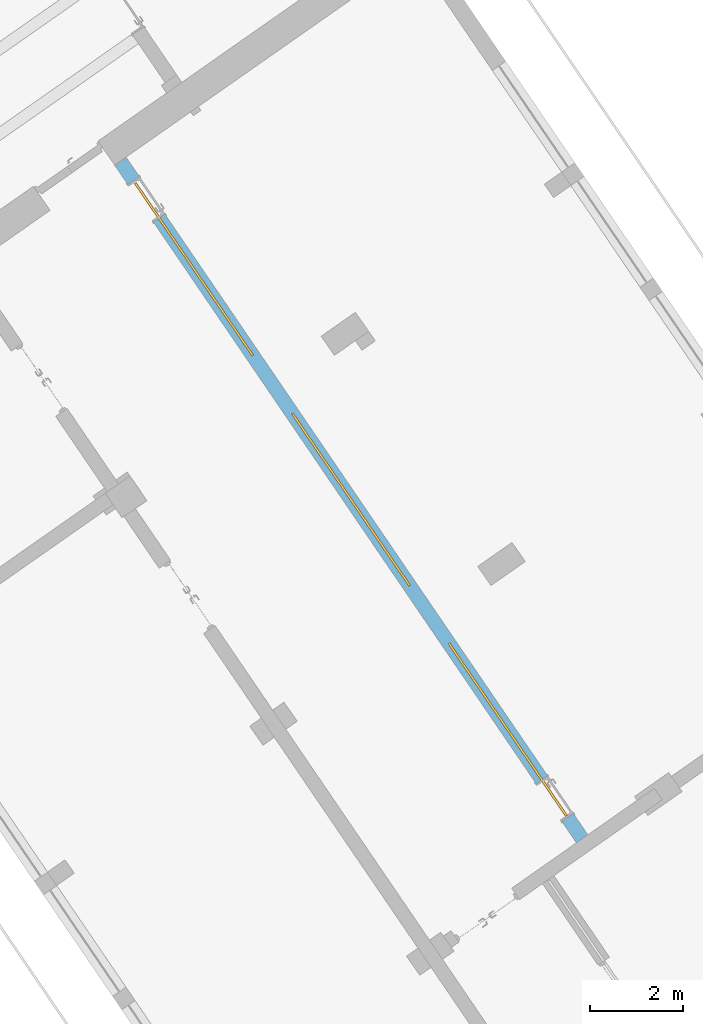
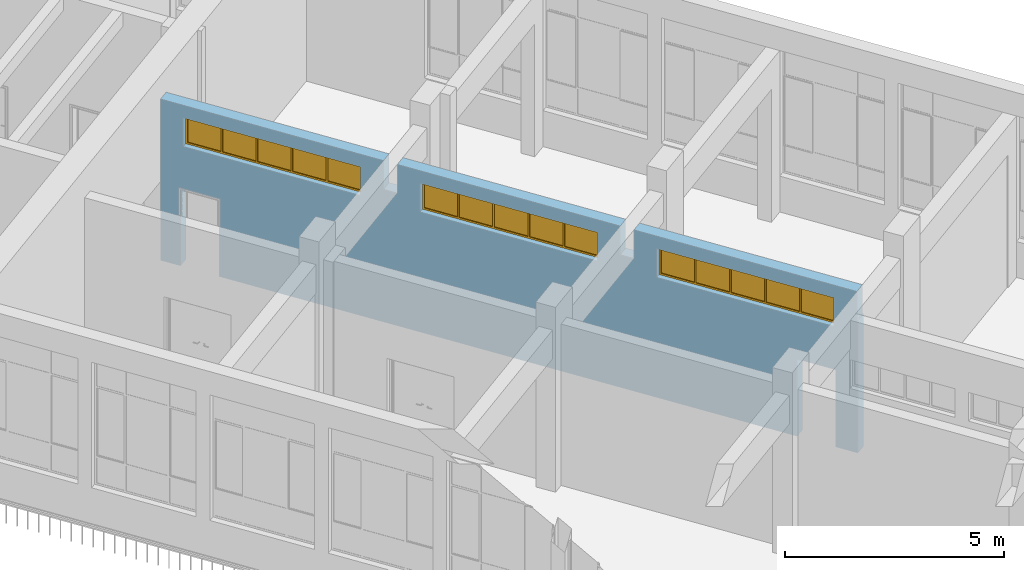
# One storey, part 128 of 157: 3 windows, 5 openings, plus 1 element that does not belong to this part.
"""IFC2X3 building model written with IfcOpenShell, lengths in millimetres."""

from ifc_helpers import new_model, entity, si_unit, converted_unit, derived_unit, direction, frame, frame_2d, origin, origin_2d_with_axis, place, context, subcontext, project, spatial, polyline, rectangle, outline, extrude, faceted_brep, source, transform, mapped, material, material_list, layer, layer_set, type_object, type_shapes, element, fill, save


model = new_model("IFC2X3")

# Units and contexts
model_context = context("Model", 3, precision=0.01, world=origin(), true_north=direction((6.123031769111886e-17, 1.0)))
body_context = subcontext(model_context, "Body", "Model", "MODEL_VIEW")
ifc_project = project(units=[si_unit("LENGTHUNIT", "METRE", prefix="MILLI"), si_unit("AREAUNIT", "SQUARE_METRE"), si_unit("VOLUMEUNIT", "CUBIC_METRE"), converted_unit("PLANEANGLEUNIT", "DEGREE", entity("IfcRatioMeasure", 0.017453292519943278), si_unit("PLANEANGLEUNIT", "RADIAN"), dimensions=[0, 0, 0, 0, 0, 0, 0]), si_unit("MASSUNIT", "GRAM", prefix="KILO"), derived_unit("MASSDENSITYUNIT", [(si_unit("MASSUNIT", "GRAM", prefix="KILO"), 1), (si_unit("LENGTHUNIT", "METRE"), -3)]), derived_unit("MOMENTOFINERTIAUNIT", [(si_unit("LENGTHUNIT", "METRE"), 4)]), si_unit("TIMEUNIT", "SECOND"), si_unit("FREQUENCYUNIT", "HERTZ"), si_unit("THERMODYNAMICTEMPERATUREUNIT", "DEGREE_CELSIUS"), derived_unit("THERMALTRANSMITTANCEUNIT", [(si_unit("MASSUNIT", "GRAM", prefix="KILO"), 1), (si_unit("THERMODYNAMICTEMPERATUREUNIT", "KELVIN"), -1), (si_unit("TIMEUNIT", "SECOND"), -3)]), derived_unit("THERMALCONDUCTANCEUNIT", [(si_unit("MASSUNIT", "GRAM", prefix="KILO"), 1), (si_unit("LENGTHUNIT", "METRE"), 1), (si_unit("THERMODYNAMICTEMPERATUREUNIT", "KELVIN"), -1), (si_unit("TIMEUNIT", "SECOND"), -3)]), derived_unit("VOLUMETRICFLOWRATEUNIT", [(si_unit("LENGTHUNIT", "METRE"), 3), (si_unit("TIMEUNIT", "SECOND"), -1)]), derived_unit("MASSFLOWRATEUNIT", [(si_unit("MASSUNIT", "GRAM", prefix="KILO"), 1), (si_unit("TIMEUNIT", "SECOND"), -1)]), derived_unit("ROTATIONALFREQUENCYUNIT", [(si_unit("TIMEUNIT", "SECOND"), -1)]), si_unit("ELECTRICCURRENTUNIT", "AMPERE"), si_unit("ELECTRICVOLTAGEUNIT", "VOLT"), si_unit("POWERUNIT", "WATT"), converted_unit("FORCEUNIT", "KIP", entity("IfcRatioMeasure", 2.088543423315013e-05), si_unit("FORCEUNIT", "NEWTON"), dimensions=[1, 1, -2, 0, 0, 0, 0]), si_unit("ILLUMINANCEUNIT", "LUX"), si_unit("LUMINOUSFLUXUNIT", "LUMEN"), si_unit("LUMINOUSINTENSITYUNIT", "CANDELA"), derived_unit("USERDEFINED", [(si_unit("MASSUNIT", "GRAM", prefix="KILO"), -1), (si_unit("LENGTHUNIT", "METRE"), -2), (si_unit("TIMEUNIT", "SECOND"), 3), (si_unit("LUMINOUSFLUXUNIT", "LUMEN"), 1)]), derived_unit("USERDEFINED", [(si_unit("MASSUNIT", "GRAM", prefix="KILO"), 1), (si_unit("LENGTHUNIT", "METRE"), 3), (si_unit("TIMEUNIT", "SECOND"), -3), (si_unit("ELECTRICCURRENTUNIT", "AMPERE"), -2)]), derived_unit("USERDEFINED", [(si_unit("LENGTHUNIT", "METRE"), 2), (si_unit("TIMEUNIT", "SECOND"), -2)]), derived_unit("SOUNDPOWERUNIT", [(si_unit("MASSUNIT", "GRAM", prefix="KILO"), 1), (si_unit("LENGTHUNIT", "METRE"), 2), (si_unit("TIMEUNIT", "SECOND"), -3)]), derived_unit("SOUNDPRESSUREUNIT", [(si_unit("MASSUNIT", "GRAM", prefix="KILO"), 1), (si_unit("LENGTHUNIT", "METRE"), -1), (si_unit("TIMEUNIT", "SECOND"), -2)]), derived_unit("LINEARVELOCITYUNIT", [(si_unit("LENGTHUNIT", "METRE"), 1), (si_unit("TIMEUNIT", "SECOND"), -1)]), si_unit("PRESSUREUNIT", "PASCAL"), derived_unit("USERDEFINED", [(si_unit("LENGTHUNIT", "METRE"), -2), (si_unit("MASSUNIT", "GRAM", prefix="KILO"), 1), (si_unit("TIMEUNIT", "SECOND"), -2)]), derived_unit("LINEARFORCEUNIT", [(si_unit("MASSUNIT", "GRAM", prefix="KILO"), 1), (si_unit("LENGTHUNIT", "METRE"), 1), (si_unit("TIMEUNIT", "SECOND"), -2), (si_unit("LENGTHUNIT", "METRE"), -1)]), derived_unit("PLANARFORCEUNIT", [(si_unit("MASSUNIT", "GRAM", prefix="KILO"), 1), (si_unit("LENGTHUNIT", "METRE"), 1), (si_unit("TIMEUNIT", "SECOND"), -2), (si_unit("LENGTHUNIT", "METRE"), -2)]), derived_unit("SPECIFICHEATCAPACITYUNIT", [(si_unit("LENGTHUNIT", "METRE"), 2), (si_unit("TIMEUNIT", "SECOND"), -2), (si_unit("THERMODYNAMICTEMPERATUREUNIT", "KELVIN"), -1)]), derived_unit("VAPORPERMEABILITYUNIT", [(si_unit("TIMEUNIT", "SECOND"), 1), (si_unit("LENGTHUNIT", "METRE"), -1)]), derived_unit("DYNAMICVISCOSITYUNIT", [(si_unit("MASSUNIT", "GRAM", prefix="KILO"), 1), (si_unit("LENGTHUNIT", "METRE"), -1), (si_unit("TIMEUNIT", "SECOND"), -1)]), derived_unit("THERMALEXPANSIONCOEFFICIENTUNIT", [(si_unit("THERMODYNAMICTEMPERATUREUNIT", "KELVIN"), -1)])], contexts=[model_context])

# Site, building, storey
site_placement = place(None, frame((0.0, 0.0, 0.0), z_axis=(0.0, 0.0, 1.0), x_axis=(0.8191520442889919, 0.5735764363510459, 0.0)))
site = spatial("IfcSite", under=ifc_project, at=site_placement, Name="Default", CompositionType="ELEMENT")
building_placement = place(site_placement, origin())
building = spatial("IfcBuilding", under=site, at=building_placement, CompositionType="ELEMENT")
storey_placement = place(building_placement, origin())
storey = spatial("IfcBuildingStorey", under=building, at=storey_placement, Name="1.EG +0.00", CompositionType="ELEMENT", Elevation=-4.331468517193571e-12)

# Wall, openings, windows
ifc_material_1 = material(Name="Analytical Wall Surface_CJC")
ifc_layer = layer(ifc_material_1, 300.0)
ifc_layer_set = layer_set([ifc_layer], Name="Basic Wall:Wand_Innen_30")
wall_type = type_object("IfcWallType", Name="Basic Wall:Wand_Innen_30", PredefinedType="STANDARD", material=ifc_layer_set)
wall_placement = place(storey_placement, frame((-213206.32020927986, 85544.44947620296, 0.0), z_axis=(0.0, 0.0, 1.0), x_axis=(0.012729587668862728, 0.999918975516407, 0.0)))
wall = element("IfcWall", 1, at=wall_placement, inside=storey, type_object=wall_type, Name="Basic Wall:Wand_Innen_30", ObjectType="Basic Wall:Wand_Innen_30", context=body_context, shape_type="Brep", body=[
    faceted_brep([(17680.25140954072, -150.0, 0.0), (17680.251409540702, -150.0, 4500.0), (12029.79358411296, -150.0, 4500.0), (12029.793584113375, -150.0, 3700.0), (11679.765223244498, -150.0, 3700.0), (11679.765223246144, -150.0, 4500.0), (6029.307397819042, -150.0, 4500.0), (6029.307397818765, -150.0, 3700.0), (5679.279036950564, -150.0, 3700.0), (5679.2790369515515, -150.0, 4500.0), (28.8212115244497, -150.0, 4500.0), (28.8212115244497, -150.0, 3700.0), (3.81918574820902, -150.0, 3700.0), (3.81918574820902, -150.0, 0.0), (562.206842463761, -150.0, 0.0), (562.206842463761, -150.0, 2150.0), (1542.2068424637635, -150.0, 2150.0), (1542.2068424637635, -150.0, 0.0), (16192.206842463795, -150.0, 0.0), (16192.206842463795, -150.0, 2150.0), (17172.206842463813, -150.0, 2150.0), (17172.2068424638, -150.0, 0.0), (6602.3084521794, -150.0, 3350.0), (6602.308452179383, -150.0, 4150.0), (11102.308452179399, -150.0, 4150.0), (11102.308452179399, -150.0, 3350.0), (602.308452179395, -150.0, 3350.0), (602.3084521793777, -150.0, 4150.0), (5102.308452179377, -150.0, 4150.0), (5102.308452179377, -150.0, 3350.0), (12602.308452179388, -150.0, 3350.0), (12602.30845217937, -150.0, 4150.0), (17102.308452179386, -150.0, 4150.0), (17102.308452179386, -150.0, 3350.0), (17676.43222379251, 150.0, 4500.0), (17676.43222379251, 150.0, 0.0), (17172.206842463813, 150.0, 0.0), (17172.20684246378, 150.0, 2150.0), (16192.206842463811, 150.0, 2150.0), (16192.206842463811, 150.0, 0.0), (1542.2068424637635, 150.0, 0.0), (1542.206842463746, 150.0, 2150.0), (562.206842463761, 150.0, 2150.0), (562.206842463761, 150.0, 0.0), (0.0, 150.0, 0.0), (0.0, 150.0, 3700.0), (25.002025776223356, 150.0, 3700.0), (25.002025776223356, 150.0, 4500.0), (5675.459851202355, 150.0, 4500.0), (5675.45985120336, 150.0, 3700.0), (6025.4882120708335, 150.0, 3700.0), (6025.488212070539, 150.0, 4500.0), (11675.94603749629, 150.0, 4500.0), (11675.946037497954, 150.0, 3700.0), (12025.974398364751, 150.0, 3700.0), (12025.97439836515, 150.0, 4500.0), (6602.308452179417, 150.0, 4150.0), (6602.3084521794, 150.0, 3350.0), (11102.308452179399, 150.0, 3350.0), (11102.308452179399, 150.0, 4150.0), (602.308452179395, 150.0, 4150.0), (602.3084521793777, 150.0, 3350.0), (5102.308452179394, 150.0, 3350.0), (5102.308452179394, 150.0, 4150.0), (12602.308452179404, 150.0, 4150.0), (12602.308452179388, 150.0, 3350.0), (17102.308452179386, 150.0, 3350.0), (17102.308452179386, 150.0, 4150.0), (17676.464448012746, 147.46876252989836, 0.0)], [[[0, 1, 2, 3, 4, 5, 6, 7, 8, 9, 10, 11, 12, 13, 14, 15, 16, 17, 18, 19, 20, 21], [22, 23, 24, 25], [26, 27, 28, 29], [30, 31, 32, 33]], [[34, 35, 36, 37, 38, 39, 40, 41, 42, 43, 44, 45, 46, 47, 48, 49, 50, 51, 52, 53, 54, 55], [56, 57, 58, 59], [60, 61, 62, 63], [64, 65, 66, 67]], [[43, 14, 13, 44]], [[1, 34, 55, 2]], [[1, 0, 68, 35, 34]], [[50, 7, 6, 51]], [[8, 49, 48, 9]], [[7, 50, 49, 8]], [[54, 3, 2, 55]], [[4, 53, 52, 5]], [[3, 54, 53, 4]], [[21, 20, 37, 36]], [[20, 19, 38, 37]], [[19, 18, 39, 38]], [[42, 15, 14, 43]], [[15, 42, 41, 16]], [[16, 41, 40, 17]], [[46, 45, 12, 11]], [[13, 12, 45, 44]], [[46, 11, 10, 47]], [[23, 22, 57, 56]], [[24, 23, 56, 59]], [[25, 24, 59, 58]], [[22, 25, 58, 57]], [[27, 26, 61, 60]], [[28, 27, 60, 63]], [[29, 28, 63, 62]], [[26, 29, 62, 61]], [[31, 30, 65, 64]], [[32, 31, 64, 67]], [[33, 32, 67, 66]], [[30, 33, 66, 65]], [[10, 9, 48, 47]], [[51, 6, 5, 52]], [[39, 18, 17, 40]], [[35, 68, 0, 21, 36]]]),
])
opening_1_placement = place(wall_placement, frame((17172.206842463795, 150.0, 0.0)))
element("IfcOpeningElement", 2, at=opening_1_placement, cuts=wall, Name="Doors_IntSgl:90x210:1", ObjectType="Opening", context=body_context, shape_type="SweptSolid", body=[
    extrude(rectangle(XDim=2150.000000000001, YDim=979.9999999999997, at=frame_2d((1075.0000000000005, 490.0000000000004), x_axis=(1.0, 0.0))), frame((0.0, 0.0, 0.0), z_axis=(0.0, -1.0, 0.0), x_axis=(0.0, 0.0, 1.0)), (0.0, 0.0, 1.0), 300.0),
])
opening_2_placement = place(wall_placement, frame((1542.2068424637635, 150.0, 0.0)))
element("IfcOpeningElement", 3, at=opening_2_placement, cuts=wall, Name="Doors_IntSgl:90x210:1", ObjectType="Opening", context=body_context, shape_type="SweptSolid", body=[
    extrude(rectangle(XDim=2150.000000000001, YDim=979.9999999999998, at=frame_2d((1075.0000000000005, 489.9999999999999), x_axis=(1.0, 0.0))), frame((0.0, 0.0, 0.0), z_axis=(0.0, -1.0, 0.0), x_axis=(0.0, 0.0, 1.0)), (0.0, 0.0, 1.0), 300.0),
])
opening_3_placement = place(wall_placement, frame((6602.308452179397, -150.0, 3350.0)))
opening_3 = element("IfcOpeningElement", 4, at=opening_3_placement, cuts=wall, Name="Fenster_Corridor450x80x335_CJC:Fenster_Corridor450x80x335_CJC:1", ObjectType="Opening", context=body_context, shape_type="SweptSolid", body=[
    extrude(rectangle(XDim=799.9999999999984, YDim=4500.000000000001, at=frame_2d((399.9999999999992, 2250.0000000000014), x_axis=(1.0, 0.0))), frame((0.0, 0.0, 0.0), z_axis=(0.0, 1.0, 0.0), x_axis=(0.0, 0.0, 1.0)), (0.0, 0.0, 1.0), 300.0),
])
opening_4_placement = place(wall_placement, frame((602.3084521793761, -150.0, 3350.0)))
opening_4 = element("IfcOpeningElement", 5, at=opening_4_placement, cuts=wall, Name="Fenster_Corridor450x80x335_CJC:Fenster_Corridor450x80x335_CJC:1", ObjectType="Opening", context=body_context, shape_type="SweptSolid", body=[
    extrude(rectangle(XDim=799.9999999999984, YDim=4500.000000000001, at=frame_2d((399.9999999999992, 2250.0000000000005), x_axis=(1.0, 0.0))), frame((0.0, 0.0, 0.0), z_axis=(0.0, 1.0, 0.0), x_axis=(0.0, 0.0, 1.0)), (0.0, 0.0, 1.0), 300.0),
])
opening_5_placement = place(wall_placement, frame((12602.308452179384, -150.0, 3350.0)))
opening_5 = element("IfcOpeningElement", 6, at=opening_5_placement, cuts=wall, Name="Fenster_Corridor450x80x335_CJC:Fenster_Corridor450x80x335_CJC:1", ObjectType="Opening", context=body_context, shape_type="SweptSolid", body=[
    extrude(rectangle(XDim=799.9999999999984, YDim=4500.000000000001, at=frame_2d((399.9999999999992, 2250.0000000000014), x_axis=(1.0, 0.0))), frame((0.0, 0.0, 0.0), z_axis=(0.0, 1.0, 0.0), x_axis=(0.0, 0.0, 1.0)), (0.0, 0.0, 1.0), 300.0),
])
ifc_material_2 = material(Name="Glass")
ifc_material_3 = material(Name="<Unnamed>")
ifc_material_list = material_list([ifc_material_2, ifc_material_3])
window_style = type_object("IfcWindowStyle", Name="Fenster_Corridor450x80x335_CJC:Fenster_Corridor450x80x335_CJC", ConstructionType="NOTDEFINED", OperationType="NOTDEFINED", ParameterTakesPrecedence=False, Sizeable=False, material=ifc_material_list)
shared_shape = source(origin(), body_context, "Body", "SweptSolid", [
    extrude(rectangle(XDim=9.999999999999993, YDim=849.9999999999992, at=origin_2d_with_axis()), frame((1360.0, 150.0, 50.0), z_axis=(0.0, 0.0, 1.0), x_axis=(0.0, 1.0, 0.0)), (0.0, 0.0, 1.0), 699.9999999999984),
    extrude(rectangle(XDim=9.999999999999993, YDim=844.9999999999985, at=origin_2d_with_axis()), frame((4027.5000000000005, 150.0, 50.0), z_axis=(0.0, 0.0, 1.0), x_axis=(0.0, 1.0, 0.0)), (0.0, 0.0, 1.0), 699.9999999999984),
    extrude(rectangle(XDim=9.999999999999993, YDim=849.9999999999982, at=frame_2d((0.0, -1.4210854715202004e-13), x_axis=(1.0, 0.0))), frame((3140.0, 150.0, 50.0), z_axis=(0.0, 0.0, 1.0), x_axis=(0.0, 1.0, 0.0)), (0.0, 0.0, 1.0), 699.9999999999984),
    extrude(rectangle(XDim=9.999999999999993, YDim=849.9999999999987, at=origin_2d_with_axis()), frame((2250.0, 150.0, 50.0), z_axis=(0.0, 0.0, 1.0), x_axis=(0.0, 1.0, 0.0)), (0.0, 0.0, 1.0), 699.9999999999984),
    extrude(rectangle(XDim=9.999999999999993, YDim=844.9999999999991, at=frame_2d((0.0, -2.5579538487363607e-13), x_axis=(1.0, 0.0))), frame((472.49999999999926, 150.0, 50.0), z_axis=(0.0, 0.0, 1.0), x_axis=(0.0, 1.0, 0.0)), (0.0, 0.0, 1.0), 699.9999999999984),
    extrude(outline(polyline([(-2250.0, -400.0), (2250.0, -400.0), (2250.0, 400.0), (-2250.0, 400.0), (-2250.0, -400.0)]), holes=[polyline([(1315.0, -350.0), (465.0, -350.0), (465.0, 350.0), (1315.0, 350.0), (1315.0, -350.0)]), polyline([(425.0, -350.0), (-425.0, -350.0), (-425.0, 350.0), (425.0, 350.0), (425.0, -350.0)]), polyline([(-465.0, -350.0), (-1315.0, -350.0), (-1315.0, 350.0), (-465.0, 350.0), (-465.0, -350.0)]), polyline([(-1355.0, 350.0), (-1355.0, -350.0), (-2200.0, -350.0), (-2200.0, 350.0), (-1355.0, 350.0)]), polyline([(1355.0, -350.0), (1355.0, 350.0), (2200.0, 350.0), (2200.0, -350.0), (1355.0, -350.0)])]), frame((2250.0, 125.0, 400.0), z_axis=(0.0, 1.0, 0.0), x_axis=(1.0, 0.0, 0.0)), (0.0, 0.0, 1.0), 50.0),
])
type_shapes(window_style, [shared_shape])
window_1_placement = place(opening_3_placement, origin())
window_1 = element("IfcWindow", 7, at=window_1_placement, inside=storey, type_object=window_style, material=ifc_material_list, Name="Fenster_Corridor450x80x335_CJC:Fenster_Corridor450x80x335_CJC", ObjectType="Fenster_Corridor450x80x335_CJC:Fenster_Corridor450x80x335_CJC", OverallHeight=799.9999999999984, OverallWidth=4500.000000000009, context=body_context, shape_type="MappedRepresentation", body=[
    mapped(shared_shape, transform((0.0, 0.0, 0.0), scale=1.0)),
])
fill(opening_3, window_1)
window_2_placement = place(opening_4_placement, origin())
window_2 = element("IfcWindow", 8, at=window_2_placement, inside=storey, type_object=window_style, material=ifc_material_list, Name="Fenster_Corridor450x80x335_CJC:Fenster_Corridor450x80x335_CJC", ObjectType="Fenster_Corridor450x80x335_CJC:Fenster_Corridor450x80x335_CJC", OverallHeight=799.9999999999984, OverallWidth=4499.999999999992, context=body_context, shape_type="MappedRepresentation", body=[
    mapped(shared_shape, transform((0.0, 0.0, 0.0), scale=1.0)),
])
fill(opening_4, window_2)
window_3_placement = place(opening_5_placement, origin())
window_3 = element("IfcWindow", 9, at=window_3_placement, inside=storey, type_object=window_style, material=ifc_material_list, Name="Fenster_Corridor450x80x335_CJC:Fenster_Corridor450x80x335_CJC", ObjectType="Fenster_Corridor450x80x335_CJC:Fenster_Corridor450x80x335_CJC", OverallHeight=799.9999999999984, OverallWidth=4500.000000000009, context=body_context, shape_type="MappedRepresentation", body=[
    mapped(shared_shape, transform((0.0, 0.0, 0.0), scale=1.0)),
])
fill(opening_5, window_3)

save(model, "model.ifc")
